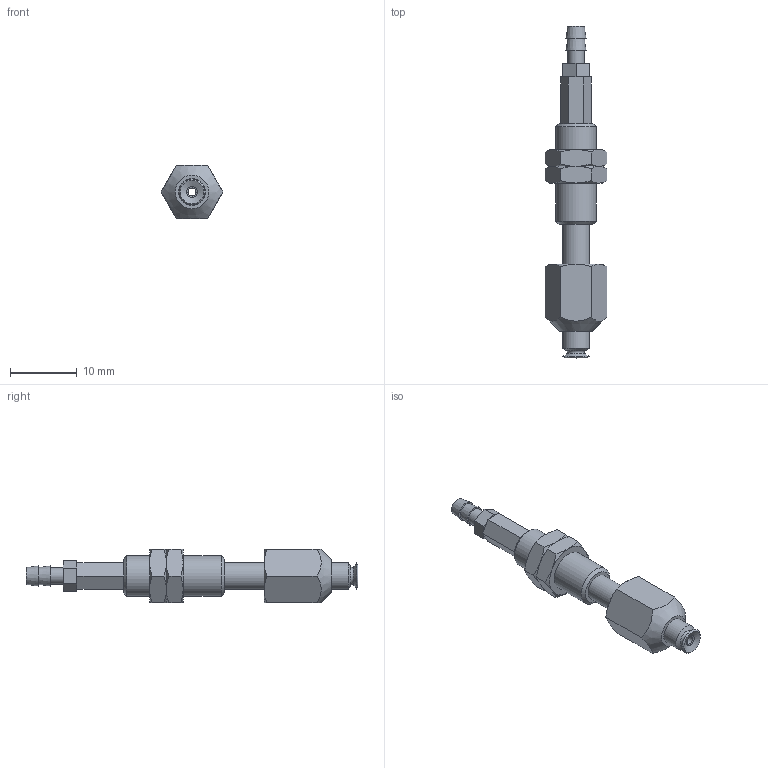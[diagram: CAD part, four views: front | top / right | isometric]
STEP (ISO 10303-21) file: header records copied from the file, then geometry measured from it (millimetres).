
FILE_DESCRIPTION(('STEP AP203'),'1');
FILE_NAME('-T.stp','2025-08-27T05:29:34',(' '),(' '),'Spatial InterOp 3D',' ',' ');
FILE_SCHEMA(('CONFIG_CONTROL_DESIGN'));
Length unit declared in the file: millimetre
Products named in the file (7): BNABPFTS-3.5A-6-※-T; ADAPTER; NAPFTS-2A-6-MBODY; Nut-3.5A-6-s; NAPFTS-3.5A-6-FBODY; BPFG-3.5A-※; T (2)
Assembly tree (7 placements, depth 2):
  BNABPFTS-3.5A-6-※-T
    ADAPTER
    NAPFTS-2A-6-MBODY
    Nut-3.5A-6-s  x2
    NAPFTS-3.5A-6-FBODY
    BPFG-3.5A-※
    T (2)
Bounding box: 9.24 x 49.6 x 8 mm (x, y, z)
Volume: 1324.2 mm3; surface area: 2017.5 mm2
Topology: 7 solids, 7 shells, 128 faces, 266 edges, 160 vertices
Faces by surface type: plane 58, cone 45, cylinder 17, torus 7, bspline 1
Full cylindrical faces by diameter (mm): 1.2 x4, 2 x2, 2.459 x1, 2.5 x1, 3 x3, 4 x3, 5.188 x2, 6 x1
Entity records: 3081 total; most frequent: CARTESIAN_POINT 702, DIRECTION 432, ORIENTED_EDGE 346, AXIS2_PLACEMENT_3D 189, EDGE_CURVE 173, EDGE_LOOP 162, FACE_OUTER_BOUND 129, VERTEX_POINT 125
